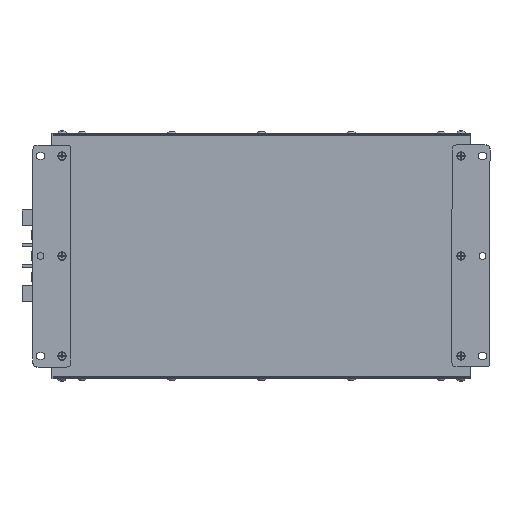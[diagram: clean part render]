
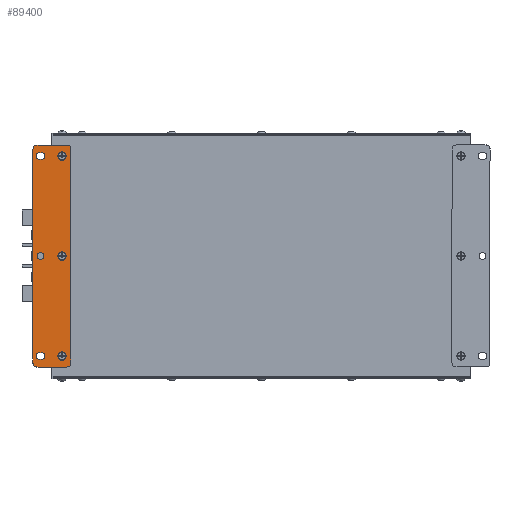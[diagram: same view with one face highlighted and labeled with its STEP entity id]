
A CAD part, front view. The second image highlights one B-rep face of the part: STEP entity #89400.
In plain terms, the highlighted planar face has unit normal (0, -1, 0).
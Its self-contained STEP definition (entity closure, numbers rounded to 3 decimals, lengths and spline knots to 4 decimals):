
#2377=CIRCLE('',#94109,0.1673);
#2378=CIRCLE('',#94111,0.1575);
#2379=CIRCLE('',#94112,0.1575);
#2380=CIRCLE('',#94113,0.1575);
#2381=CIRCLE('',#94114,0.1575);
#2382=CIRCLE('',#94115,0.1673);
#2383=CIRCLE('',#94116,0.1299);
#2384=CIRCLE('',#94117,0.1299);
#2385=CIRCLE('',#94118,0.1299);
#2386=CIRCLE('',#94119,0.1299);
#2387=CIRCLE('',#94120,0.1299);
#2388=CIRCLE('',#94121,0.1673);
#5643=FACE_BOUND('',#14213,.T.);
#5644=FACE_BOUND('',#14214,.T.);
#5645=FACE_BOUND('',#14215,.T.);
#5646=FACE_BOUND('',#14216,.T.);
#5647=FACE_BOUND('',#14217,.T.);
#5648=FACE_BOUND('',#14218,.T.);
#9647=FACE_OUTER_BOUND('',#14212,.T.);
#14212=EDGE_LOOP('',(#58943,#58944,#58945,#58946,#58947,#58948,#58949,#58950));
#14213=EDGE_LOOP('',(#58951));
#14214=EDGE_LOOP('',(#58952,#58953,#58954,#58955));
#14215=EDGE_LOOP('',(#58956,#58957,#58958,#58959));
#14216=EDGE_LOOP('',(#58960));
#14217=EDGE_LOOP('',(#58961));
#14218=EDGE_LOOP('',(#58962));
#19791=LINE('',#128927,#26985);
#19792=LINE('',#128931,#26986);
#19793=LINE('',#128935,#26987);
#19794=LINE('',#128939,#26988);
#19795=LINE('',#128945,#26989);
#19796=LINE('',#128949,#26990);
#19797=LINE('',#128953,#26991);
#19798=LINE('',#128957,#26992);
#26985=VECTOR('',#103409,0.3937);
#26986=VECTOR('',#103412,0.3937);
#26987=VECTOR('',#103415,0.3937);
#26988=VECTOR('',#103418,0.3937);
#26989=VECTOR('',#103423,0.3937);
#26990=VECTOR('',#103426,0.3937);
#26991=VECTOR('',#103429,0.3937);
#26992=VECTOR('',#103432,0.3937);
#34356=VERTEX_POINT('',#128921);
#34357=VERTEX_POINT('',#128925);
#34358=VERTEX_POINT('',#128926);
#34359=VERTEX_POINT('',#128928);
#34360=VERTEX_POINT('',#128930);
#34361=VERTEX_POINT('',#128932);
#34362=VERTEX_POINT('',#128934);
#34363=VERTEX_POINT('',#128936);
#34364=VERTEX_POINT('',#128938);
#34365=VERTEX_POINT('',#128941);
#34366=VERTEX_POINT('',#128943);
#34367=VERTEX_POINT('',#128944);
#34368=VERTEX_POINT('',#128946);
#34369=VERTEX_POINT('',#128948);
#34370=VERTEX_POINT('',#128951);
#34371=VERTEX_POINT('',#128952);
#34372=VERTEX_POINT('',#128954);
#34373=VERTEX_POINT('',#128956);
#34374=VERTEX_POINT('',#128959);
#34375=VERTEX_POINT('',#128961);
#44142=EDGE_CURVE('',#34356,#34356,#2377,.T.);
#44144=EDGE_CURVE('',#34357,#34358,#19791,.T.);
#44145=EDGE_CURVE('',#34358,#34359,#2378,.T.);
#44146=EDGE_CURVE('',#34359,#34360,#19792,.T.);
#44147=EDGE_CURVE('',#34360,#34361,#2379,.T.);
#44148=EDGE_CURVE('',#34361,#34362,#19793,.T.);
#44149=EDGE_CURVE('',#34362,#34363,#2380,.T.);
#44150=EDGE_CURVE('',#34363,#34364,#19794,.T.);
#44151=EDGE_CURVE('',#34364,#34357,#2381,.T.);
#44152=EDGE_CURVE('',#34365,#34365,#2382,.T.);
#44153=EDGE_CURVE('',#34366,#34367,#19795,.T.);
#44154=EDGE_CURVE('',#34367,#34368,#2383,.T.);
#44155=EDGE_CURVE('',#34368,#34369,#19796,.T.);
#44156=EDGE_CURVE('',#34369,#34366,#2384,.T.);
#44157=EDGE_CURVE('',#34370,#34371,#19797,.T.);
#44158=EDGE_CURVE('',#34371,#34372,#2385,.T.);
#44159=EDGE_CURVE('',#34372,#34373,#19798,.T.);
#44160=EDGE_CURVE('',#34373,#34370,#2386,.T.);
#44161=EDGE_CURVE('',#34374,#34374,#2387,.T.);
#44162=EDGE_CURVE('',#34375,#34375,#2388,.T.);
#58943=ORIENTED_EDGE('',*,*,#44144,.T.);
#58944=ORIENTED_EDGE('',*,*,#44145,.T.);
#58945=ORIENTED_EDGE('',*,*,#44146,.T.);
#58946=ORIENTED_EDGE('',*,*,#44147,.T.);
#58947=ORIENTED_EDGE('',*,*,#44148,.T.);
#58948=ORIENTED_EDGE('',*,*,#44149,.T.);
#58949=ORIENTED_EDGE('',*,*,#44150,.T.);
#58950=ORIENTED_EDGE('',*,*,#44151,.T.);
#58951=ORIENTED_EDGE('',*,*,#44152,.F.);
#58952=ORIENTED_EDGE('',*,*,#44153,.T.);
#58953=ORIENTED_EDGE('',*,*,#44154,.T.);
#58954=ORIENTED_EDGE('',*,*,#44155,.T.);
#58955=ORIENTED_EDGE('',*,*,#44156,.T.);
#58956=ORIENTED_EDGE('',*,*,#44157,.T.);
#58957=ORIENTED_EDGE('',*,*,#44158,.T.);
#58958=ORIENTED_EDGE('',*,*,#44159,.T.);
#58959=ORIENTED_EDGE('',*,*,#44160,.T.);
#58960=ORIENTED_EDGE('',*,*,#44161,.T.);
#58961=ORIENTED_EDGE('',*,*,#44162,.F.);
#58962=ORIENTED_EDGE('',*,*,#44142,.F.);
#83150=PLANE('',#94110);
#89400=ADVANCED_FACE('',(#9647,#5643,#5644,#5645,#5646,#5647,#5648),#83150,
 .T.);
#94109=AXIS2_PLACEMENT_3D('',#128922,#103404,#103405);
#94110=AXIS2_PLACEMENT_3D('',#128924,#103407,#103408);
#94111=AXIS2_PLACEMENT_3D('',#128929,#103410,#103411);
#94112=AXIS2_PLACEMENT_3D('',#128933,#103413,#103414);
#94113=AXIS2_PLACEMENT_3D('',#128937,#103416,#103417);
#94114=AXIS2_PLACEMENT_3D('',#128940,#103419,#103420);
#94115=AXIS2_PLACEMENT_3D('',#128942,#103421,#103422);
#94116=AXIS2_PLACEMENT_3D('',#128947,#103424,#103425);
#94117=AXIS2_PLACEMENT_3D('',#128950,#103427,#103428);
#94118=AXIS2_PLACEMENT_3D('',#128955,#103430,#103431);
#94119=AXIS2_PLACEMENT_3D('',#128958,#103433,#103434);
#94120=AXIS2_PLACEMENT_3D('',#128960,#103435,#103436);
#94121=AXIS2_PLACEMENT_3D('',#128962,#103437,#103438);
#103404=DIRECTION('center_axis',(0.,-1.,0.));
#103405=DIRECTION('ref_axis',(0.,0.,-1.));
#103407=DIRECTION('center_axis',(0.,-1.,0.));
#103408=DIRECTION('ref_axis',(-1.,0.,0.));
#103409=DIRECTION('',(-1.,0.,0.));
#103410=DIRECTION('center_axis',(0.,-1.,0.));
#103411=DIRECTION('ref_axis',(0.,0.,1.));
#103412=DIRECTION('',(0.,0.,-1.));
#103413=DIRECTION('center_axis',(0.,-1.,0.));
#103414=DIRECTION('ref_axis',(-1.,0.,0.));
#103415=DIRECTION('',(1.,0.,0.));
#103416=DIRECTION('center_axis',(0.,-1.,0.));
#103417=DIRECTION('ref_axis',(0.,0.,-1.));
#103418=DIRECTION('',(0.,0.,1.));
#103419=DIRECTION('center_axis',(0.,-1.,0.));
#103420=DIRECTION('ref_axis',(1.,0.,0.));
#103421=DIRECTION('center_axis',(0.,-1.,0.));
#103422=DIRECTION('ref_axis',(0.,0.,-1.));
#103423=DIRECTION('',(1.,0.,0.));
#103424=DIRECTION('center_axis',(0.,1.,0.));
#103425=DIRECTION('ref_axis',(0.,0.,1.));
#103426=DIRECTION('',(-1.,0.,0.));
#103427=DIRECTION('center_axis',(0.,1.,0.));
#103428=DIRECTION('ref_axis',(0.,0.,-1.));
#103429=DIRECTION('',(-1.,0.,0.));
#103430=DIRECTION('center_axis',(0.,1.,0.));
#103431=DIRECTION('ref_axis',(0.,0.,-1.));
#103432=DIRECTION('',(1.,0.,0.));
#103433=DIRECTION('center_axis',(0.,1.,0.));
#103434=DIRECTION('ref_axis',(0.,0.,1.));
#103435=DIRECTION('center_axis',(0.,1.,0.));
#103436=DIRECTION('ref_axis',(0.,0.,-1.));
#103437=DIRECTION('center_axis',(0.,-1.,0.));
#103438=DIRECTION('ref_axis',(0.,0.,-1.));
#128921=CARTESIAN_POINT('',(-15.9302,-0.1339,-9.4339));
#128922=CARTESIAN_POINT('Origin',(-15.9302,-0.1339,
-9.6012));
#128924=CARTESIAN_POINT('Origin',(-16.3239,-0.1339,
-5.6642));
#128925=CARTESIAN_POINT('',(-15.7333,-0.1339,-1.2941));
#128926=CARTESIAN_POINT('',(-16.9144,-0.1339,-1.2941));
#128927=CARTESIAN_POINT('',(-15.7333,-0.1339,-1.2941));
#128928=CARTESIAN_POINT('',(-17.0719,-0.1339,-1.4516));
#128929=CARTESIAN_POINT('Origin',(-16.9144,-0.1339,
-1.4516));
#128930=CARTESIAN_POINT('',(-17.0719,-0.1339,-9.8768));
#128931=CARTESIAN_POINT('',(-17.0719,-0.1339,-1.4516));
#128932=CARTESIAN_POINT('',(-16.9144,-0.1339,-10.0343));
#128933=CARTESIAN_POINT('Origin',(-16.9144,-0.1339,
-9.8768));
#128934=CARTESIAN_POINT('',(-15.7333,-0.1339,-10.0343));
#128935=CARTESIAN_POINT('',(-16.9144,-0.1339,-10.0343));
#128936=CARTESIAN_POINT('',(-15.5758,-0.1339,-9.8768));
#128937=CARTESIAN_POINT('Origin',(-15.7333,-0.1339,
-9.8768));
#128938=CARTESIAN_POINT('',(-15.5758,-0.1339,-1.4516));
#128939=CARTESIAN_POINT('',(-15.5758,-0.1339,-9.8768));
#128940=CARTESIAN_POINT('Origin',(-15.7333,-0.1339,
-1.4516));
#128941=CARTESIAN_POINT('',(-15.9302,-0.1339,-5.4969));
#128942=CARTESIAN_POINT('Origin',(-15.9302,-0.1339,
-5.6642));
#128943=CARTESIAN_POINT('',(-16.816,-0.1339,-9.4713));
#128944=CARTESIAN_POINT('',(-16.7372,-0.1339,-9.4713));
#128945=CARTESIAN_POINT('',(-16.816,-0.1339,-9.4713));
#128946=CARTESIAN_POINT('',(-16.7372,-0.1339,-9.7311));
#128947=CARTESIAN_POINT('Origin',(-16.7372,-0.1339,
-9.6012));
#128948=CARTESIAN_POINT('',(-16.816,-0.1339,-9.7311));
#128949=CARTESIAN_POINT('',(-16.7372,-0.1339,-9.7311));
#128950=CARTESIAN_POINT('Origin',(-16.816,-0.1339,
-9.6012));
#128951=CARTESIAN_POINT('',(-16.7372,-0.1339,-1.8571));
#128952=CARTESIAN_POINT('',(-16.816,-0.1339,-1.8571));
#128953=CARTESIAN_POINT('',(-16.7372,-0.1339,-1.8571));
#128954=CARTESIAN_POINT('',(-16.816,-0.1339,-1.5973));
#128955=CARTESIAN_POINT('Origin',(-16.816,-0.1339,
-1.7272));
#128956=CARTESIAN_POINT('',(-16.7372,-0.1339,-1.5973));
#128957=CARTESIAN_POINT('',(-16.816,-0.1339,-1.5973));
#128958=CARTESIAN_POINT('Origin',(-16.7372,-0.1339,
-1.7272));
#128959=CARTESIAN_POINT('',(-16.7766,-0.1339,-5.5343));
#128960=CARTESIAN_POINT('Origin',(-16.7766,-0.1339,-5.6642));
#128961=CARTESIAN_POINT('',(-15.9302,-0.1339,-1.5599));
#128962=CARTESIAN_POINT('Origin',(-15.9302,-0.1339,
-1.7272));
